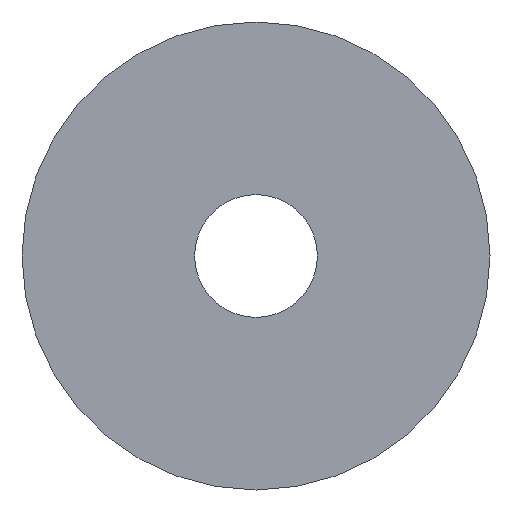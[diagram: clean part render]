
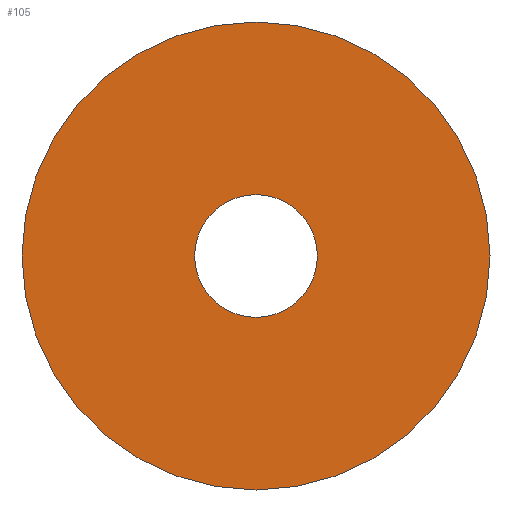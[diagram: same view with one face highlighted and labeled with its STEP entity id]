
A CAD part, left-side view. The second image highlights one B-rep face of the part: STEP entity #105.
In plain terms, the highlighted planar face has unit normal (-1, 0, 0).
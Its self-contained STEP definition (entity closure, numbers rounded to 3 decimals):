
#22 = VERTEX_POINT('',#23);
#23 = CARTESIAN_POINT('',(19.,12.,-98.));
#32 = CYLINDRICAL_SURFACE('',#33,12.);
#33 = AXIS2_PLACEMENT_3D('',#34,#35,#36);
#34 = CARTESIAN_POINT('',(19.,0.,-98.));
#35 = DIRECTION('',(-1.,-0.,-0.));
#36 = DIRECTION('',(0.,1.,0.));
#79 = EDGE_CURVE('',#22,#22,#80,.T.);
#80 = SURFACE_CURVE('',#81,(#86,#93),.PCURVE_S1.);
#81 = CIRCLE('',#82,12.);
#82 = AXIS2_PLACEMENT_3D('',#83,#84,#85);
#83 = CARTESIAN_POINT('',(19.,0.,-98.));
#84 = DIRECTION('',(1.,0.,0.));
#85 = DIRECTION('',(0.,1.,0.));
#86 = PCURVE('',#32,#87);
#87 = DEFINITIONAL_REPRESENTATION('',(#88),#92);
#88 = LINE('',#89,#90);
#89 = CARTESIAN_POINT('',(-0.,0.));
#90 = VECTOR('',#91,1.);
#91 = DIRECTION('',(-1.,0.));
#92 = ( GEOMETRIC_REPRESENTATION_CONTEXT(2) 
PARAMETRIC_REPRESENTATION_CONTEXT() REPRESENTATION_CONTEXT('2D SPACE',''
  ) );
#93 = PCURVE('',#94,#99);
#94 = PLANE('',#95);
#95 = AXIS2_PLACEMENT_3D('',#96,#97,#98);
#96 = CARTESIAN_POINT('',(19.,0.,-98.));
#97 = DIRECTION('',(1.,0.,0.));
#98 = DIRECTION('',(-0.,0.,1.));
#99 = DEFINITIONAL_REPRESENTATION('',(#100),#104);
#100 = CIRCLE('',#101,12.);
#101 = AXIS2_PLACEMENT_2D('',#102,#103);
#102 = CARTESIAN_POINT('',(0.,0.));
#103 = DIRECTION('',(0.,-1.));
#104 = ( GEOMETRIC_REPRESENTATION_CONTEXT(2) 
PARAMETRIC_REPRESENTATION_CONTEXT() REPRESENTATION_CONTEXT('2D SPACE',''
  ) );
#105 = ADVANCED_FACE('',(#106,#109),#94,.F.);
#106 = FACE_BOUND('',#107,.F.);
#107 = EDGE_LOOP('',(#108));
#108 = ORIENTED_EDGE('',*,*,#79,.T.);
#109 = FACE_BOUND('',#110,.F.);
#110 = EDGE_LOOP('',(#111));
#111 = ORIENTED_EDGE('',*,*,#112,.T.);
#112 = EDGE_CURVE('',#113,#113,#115,.T.);
#113 = VERTEX_POINT('',#114);
#114 = CARTESIAN_POINT('',(19.,3.15,-98.));
#115 = SURFACE_CURVE('',#116,(#121,#132),.PCURVE_S1.);
#116 = CIRCLE('',#117,3.15);
#117 = AXIS2_PLACEMENT_3D('',#118,#119,#120);
#118 = CARTESIAN_POINT('',(19.,0.,-98.));
#119 = DIRECTION('',(-1.,0.,0.));
#120 = DIRECTION('',(0.,1.,0.));
#121 = PCURVE('',#94,#122);
#122 = DEFINITIONAL_REPRESENTATION('',(#123),#131);
#123 = ( BOUNDED_CURVE() B_SPLINE_CURVE(2,(#124,#125,#126,#127,#128,#129
,#130),.UNSPECIFIED.,.T.,.F.) B_SPLINE_CURVE_WITH_KNOTS((1,2,2,2,2,1),(
    -2.094,0.,2.094,4.189,6.283,
8.378),.UNSPECIFIED.) CURVE() GEOMETRIC_REPRESENTATION_ITEM() 
RATIONAL_B_SPLINE_CURVE((1.,0.5,1.,0.5,1.,0.5,1.)) REPRESENTATION_ITEM(
  '') );
#124 = CARTESIAN_POINT('',(0.,-3.15));
#125 = CARTESIAN_POINT('',(-5.456,-3.15));
#126 = CARTESIAN_POINT('',(-2.728,1.575));
#127 = CARTESIAN_POINT('',(0.,6.3));
#128 = CARTESIAN_POINT('',(2.728,1.575));
#129 = CARTESIAN_POINT('',(5.456,-3.15));
#130 = CARTESIAN_POINT('',(0.,-3.15));
#131 = ( GEOMETRIC_REPRESENTATION_CONTEXT(2) 
PARAMETRIC_REPRESENTATION_CONTEXT() REPRESENTATION_CONTEXT('2D SPACE',''
  ) );
#132 = PCURVE('',#133,#138);
#133 = CYLINDRICAL_SURFACE('',#134,3.15);
#134 = AXIS2_PLACEMENT_3D('',#135,#136,#137);
#135 = CARTESIAN_POINT('',(18.,0.,-98.));
#136 = DIRECTION('',(-1.,-0.,-0.));
#137 = DIRECTION('',(0.,1.,0.));
#138 = DEFINITIONAL_REPRESENTATION('',(#139),#143);
#139 = LINE('',#140,#141);
#140 = CARTESIAN_POINT('',(-6.283,-1.));
#141 = VECTOR('',#142,1.);
#142 = DIRECTION('',(1.,-0.));
#143 = ( GEOMETRIC_REPRESENTATION_CONTEXT(2) 
PARAMETRIC_REPRESENTATION_CONTEXT() REPRESENTATION_CONTEXT('2D SPACE',''
  ) );
